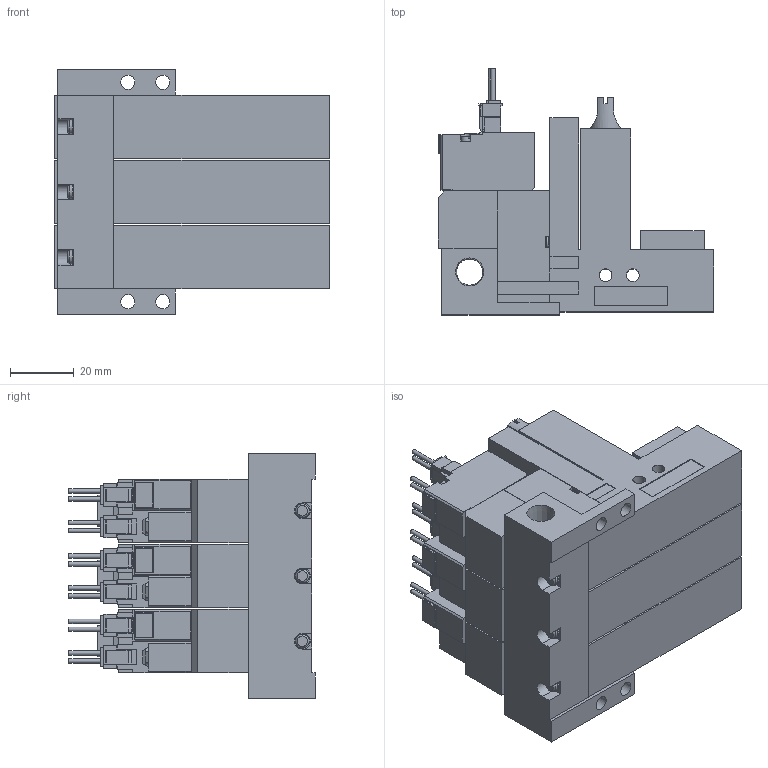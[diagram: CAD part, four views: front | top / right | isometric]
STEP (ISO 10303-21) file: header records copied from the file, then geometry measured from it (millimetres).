
FILE_DESCRIPTION(('STEP AP203'),'1');
FILE_NAME('ZL5ALR303.stp','2025-02-18T07:19:39',(' '),(' '),'Spatial InterOp 3D',' ',' ');
FILE_SCHEMA(('CONFIG_CONTROL_DESIGN'));
Length unit declared in the file: millimetre
Products named in the file (5): BMC22M※※※※ZL5ALR303; Solenoid valve A; Pressure sensor ZL; Unit L; Base MR30R
Assembly tree (10 placements, depth 2):
  BMC22M※※※※ZL5ALR303
    Solenoid valve A  x3
    Pressure sensor ZL  x3
    Unit L  x3
    Base MR30R
Bounding box: 86.6 x 77.45 x 77 mm (x, y, z)
Volume: 235527.3 mm3; surface area: 67579.6 mm2
Topology: 10 solids, 10 shells, 1059 faces, 2876 edges, 1894 vertices
Faces by surface type: plane 908, cylinder 119, cone 23, torus 9
Full cylindrical faces by diameter (mm): 1.4 x12, 2.5 x3, 3 x12, 3.5 x12, 3.6 x3, 4 x6, 4.134 x3, 4.5 x4, 5.2 x3, 6 x3, 6.6 x3, 8.279 x1
Entity records: 12474 total; most frequent: CARTESIAN_POINT 2329, ORIENTED_EDGE 1998, DIRECTION 1969, EDGE_CURVE 999, LINE 839, VECTOR 839, VERTEX_POINT 690, AXIS2_PLACEMENT_3D 565
